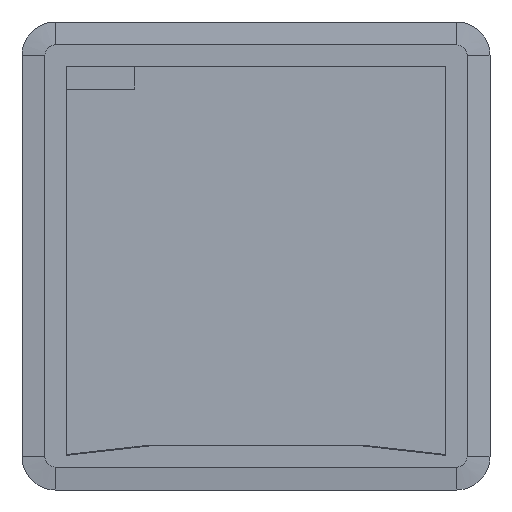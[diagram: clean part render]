
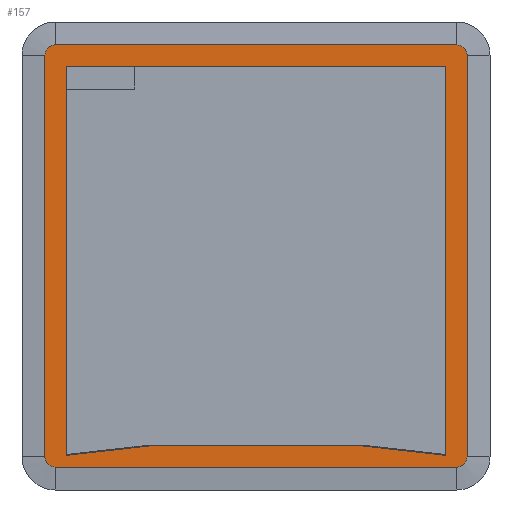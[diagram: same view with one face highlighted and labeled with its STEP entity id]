
A CAD part, front view. The second image highlights one B-rep face of the part: STEP entity #157.
In plain terms, the highlighted planar face has unit normal (0, -1, 0).
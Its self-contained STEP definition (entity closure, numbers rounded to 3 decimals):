
#68=FACE_BOUND('',#1782,.T.);
#157=ADVANCED_FACE('',(#969,#68),#12522,.T.);
#969=FACE_OUTER_BOUND('',#1781,.T.);
#1781=EDGE_LOOP('',(#2698,#2699,#2700,#2701,#2702,#2703,#2704,#2705));
#1782=EDGE_LOOP('',(#2706,#2707,#2708,#2709,#2710,#2711));
#2698=ORIENTED_EDGE('',*,*,#6779,.F.);
#2699=ORIENTED_EDGE('',*,*,#6782,.F.);
#2700=ORIENTED_EDGE('',*,*,#6785,.F.);
#2701=ORIENTED_EDGE('',*,*,#6788,.F.);
#2702=ORIENTED_EDGE('',*,*,#6791,.F.);
#2703=ORIENTED_EDGE('',*,*,#6810,.F.);
#2704=ORIENTED_EDGE('',*,*,#6772,.F.);
#2705=ORIENTED_EDGE('',*,*,#6776,.F.);
#2706=ORIENTED_EDGE('',*,*,#6760,.F.);
#2707=ORIENTED_EDGE('',*,*,#6758,.F.);
#2708=ORIENTED_EDGE('',*,*,#6756,.T.);
#2709=ORIENTED_EDGE('',*,*,#6761,.F.);
#2710=ORIENTED_EDGE('',*,*,#6762,.F.);
#2711=ORIENTED_EDGE('',*,*,#6759,.T.);
#6756=EDGE_CURVE('',#10862,#10861,#9630,.T.);
#6758=EDGE_CURVE('',#10862,#10863,#9632,.T.);
#6759=EDGE_CURVE('',#10865,#10864,#9633,.T.);
#6760=EDGE_CURVE('',#10863,#10864,#9634,.T.);
#6761=EDGE_CURVE('',#10867,#10861,#9635,.T.);
#6762=EDGE_CURVE('',#10865,#10867,#9636,.T.);
#6772=EDGE_CURVE('',#10869,#10868,#9646,.T.);
#6776=EDGE_CURVE('',#10866,#10869,#8800,.T.);
#6779=EDGE_CURVE('',#10873,#10866,#9651,.T.);
#6782=EDGE_CURVE('',#10875,#10873,#8802,.T.);
#6785=EDGE_CURVE('',#10877,#10875,#9655,.T.);
#6788=EDGE_CURVE('',#10879,#10877,#8804,.T.);
#6791=EDGE_CURVE('',#10881,#10879,#9659,.T.);
#6810=EDGE_CURVE('',#10868,#10881,#8810,.T.);
#8800=(
BOUNDED_CURVE()
B_SPLINE_CURVE(2,(#19932,#19933,#19934),.UNSPECIFIED.,.F.,.F.)
B_SPLINE_CURVE_WITH_KNOTS((3,3),(-7.069,0.),.UNSPECIFIED.)
CURVE()
GEOMETRIC_REPRESENTATION_ITEM()
RATIONAL_B_SPLINE_CURVE((1.,0.707,1.))
REPRESENTATION_ITEM('')
);
#8802=(
BOUNDED_CURVE()
B_SPLINE_CURVE(2,(#19946,#19947,#19948),.UNSPECIFIED.,.F.,.F.)
B_SPLINE_CURVE_WITH_KNOTS((3,3),(-7.069,0.),.UNSPECIFIED.)
CURVE()
GEOMETRIC_REPRESENTATION_ITEM()
RATIONAL_B_SPLINE_CURVE((1.,0.707,1.))
REPRESENTATION_ITEM('')
);
#8804=(
BOUNDED_CURVE()
B_SPLINE_CURVE(2,(#19960,#19961,#19962),.UNSPECIFIED.,.F.,.F.)
B_SPLINE_CURVE_WITH_KNOTS((3,3),(-7.069,0.),.UNSPECIFIED.)
CURVE()
GEOMETRIC_REPRESENTATION_ITEM()
RATIONAL_B_SPLINE_CURVE((1.,0.707,1.))
REPRESENTATION_ITEM('')
);
#8810=(
BOUNDED_CURVE()
B_SPLINE_CURVE(2,(#20010,#20011,#20012),.UNSPECIFIED.,.F.,.F.)
B_SPLINE_CURVE_WITH_KNOTS((3,3),(-7.069,0.),.UNSPECIFIED.)
CURVE()
GEOMETRIC_REPRESENTATION_ITEM()
RATIONAL_B_SPLINE_CURVE((1.,0.707,1.))
REPRESENTATION_ITEM('')
);
#9630=B_SPLINE_CURVE_WITH_KNOTS('',1,(#19814,#19815),.UNSPECIFIED.,.F.,.F.,
(2,2),(-165.5,0.),.UNSPECIFIED.);
#9632=B_SPLINE_CURVE_WITH_KNOTS('',1,(#19818,#19819),.UNSPECIFIED.,.F.,.F.,
(2,2),(0.,169.649),.UNSPECIFIED.);
#9633=B_SPLINE_CURVE_WITH_KNOTS('',1,(#19820,#19821),.UNSPECIFIED.,.F.,.F.,
(2,2),(-92.062,0.),.UNSPECIFIED.);
#9634=B_SPLINE_CURVE_WITH_KNOTS('',1,(#19822,#19823),.UNSPECIFIED.,.F.,.F.,
(2,2),(0.,36.953),.UNSPECIFIED.);
#9635=B_SPLINE_CURVE_WITH_KNOTS('',1,(#19824,#19825),.UNSPECIFIED.,.F.,.F.,
(2,2),(0.,169.649),.UNSPECIFIED.);
#9636=B_SPLINE_CURVE_WITH_KNOTS('',1,(#19826,#19827),.UNSPECIFIED.,.F.,.F.,
(2,2),(-36.953,0.),.UNSPECIFIED.);
#9646=B_SPLINE_CURVE_WITH_KNOTS('',1,(#19924,#19925),.UNSPECIFIED.,.F.,.F.,
(2,2),(-175.,0.),.UNSPECIFIED.);
#9651=B_SPLINE_CURVE_WITH_KNOTS('',1,(#19940,#19941),.UNSPECIFIED.,.F.,.F.,
(2,2),(-175.,0.),.UNSPECIFIED.);
#9655=B_SPLINE_CURVE_WITH_KNOTS('',1,(#19954,#19955),.UNSPECIFIED.,.F.,.F.,
(2,2),(-175.,0.),.UNSPECIFIED.);
#9659=B_SPLINE_CURVE_WITH_KNOTS('',1,(#19968,#19969),.UNSPECIFIED.,.F.,.F.,
(2,2),(-175.,0.),.UNSPECIFIED.);
#10861=VERTEX_POINT('',#19064);
#10862=VERTEX_POINT('',#19065);
#10863=VERTEX_POINT('',#19066);
#10864=VERTEX_POINT('',#19067);
#10865=VERTEX_POINT('',#19068);
#10866=VERTEX_POINT('',#19069);
#10867=VERTEX_POINT('',#19070);
#10868=VERTEX_POINT('',#19071);
#10869=VERTEX_POINT('',#19072);
#10873=VERTEX_POINT('',#19076);
#10875=VERTEX_POINT('',#19078);
#10877=VERTEX_POINT('',#19080);
#10879=VERTEX_POINT('',#19082);
#10881=VERTEX_POINT('',#19084);
#12522=PLANE('',#13067);
#13067=AXIS2_PLACEMENT_3D('',#13990,#13528,$);
#13528=DIRECTION('',(0.,-1.,0.));
#13990=CARTESIAN_POINT('',(-110.4,-27.5,110.4));
#19064=CARTESIAN_POINT('',(82.75,-27.5,82.75));
#19065=CARTESIAN_POINT('',(-82.75,-27.5,82.75));
#19066=CARTESIAN_POINT('',(-82.75,-27.5,-86.899));
#19067=CARTESIAN_POINT('',(-46.031,-27.5,-82.75));
#19068=CARTESIAN_POINT('',(46.031,-27.5,-82.75));
#19069=CARTESIAN_POINT('',(-92.,-27.5,87.5));
#19070=CARTESIAN_POINT('',(82.75,-27.5,-86.899));
#19071=CARTESIAN_POINT('',(87.5,-27.5,92.));
#19072=CARTESIAN_POINT('',(-87.5,-27.5,92.));
#19076=CARTESIAN_POINT('',(-92.,-27.5,-87.5));
#19078=CARTESIAN_POINT('',(-87.5,-27.5,-92.));
#19080=CARTESIAN_POINT('',(87.5,-27.5,-92.));
#19082=CARTESIAN_POINT('',(92.,-27.5,-87.5));
#19084=CARTESIAN_POINT('',(92.,-27.5,87.5));
#19814=CARTESIAN_POINT('',(-82.75,-27.5,82.75));
#19815=CARTESIAN_POINT('',(82.75,-27.5,82.75));
#19818=CARTESIAN_POINT('',(-82.75,-27.5,82.75));
#19819=CARTESIAN_POINT('',(-82.75,-27.5,-86.899));
#19820=CARTESIAN_POINT('',(46.031,-27.5,-82.75));
#19821=CARTESIAN_POINT('',(-46.031,-27.5,-82.75));
#19822=CARTESIAN_POINT('',(-82.75,-27.5,-86.899));
#19823=CARTESIAN_POINT('',(-46.031,-27.5,-82.75));
#19824=CARTESIAN_POINT('',(82.75,-27.5,-86.899));
#19825=CARTESIAN_POINT('',(82.75,-27.5,82.75));
#19826=CARTESIAN_POINT('',(46.031,-27.5,-82.75));
#19827=CARTESIAN_POINT('',(82.75,-27.5,-86.899));
#19924=CARTESIAN_POINT('',(-87.5,-27.5,92.));
#19925=CARTESIAN_POINT('',(87.5,-27.5,92.));
#19932=CARTESIAN_POINT('',(-92.,-27.5,87.5));
#19933=CARTESIAN_POINT('',(-92.,-27.5,92.));
#19934=CARTESIAN_POINT('',(-87.5,-27.5,92.));
#19940=CARTESIAN_POINT('',(-92.,-27.5,-87.5));
#19941=CARTESIAN_POINT('',(-92.,-27.5,87.5));
#19946=CARTESIAN_POINT('',(-87.5,-27.5,-92.));
#19947=CARTESIAN_POINT('',(-92.,-27.5,-92.));
#19948=CARTESIAN_POINT('',(-92.,-27.5,-87.5));
#19954=CARTESIAN_POINT('',(87.5,-27.5,-92.));
#19955=CARTESIAN_POINT('',(-87.5,-27.5,-92.));
#19960=CARTESIAN_POINT('',(92.,-27.5,-87.5));
#19961=CARTESIAN_POINT('',(92.,-27.5,-92.));
#19962=CARTESIAN_POINT('',(87.5,-27.5,-92.));
#19968=CARTESIAN_POINT('',(92.,-27.5,87.5));
#19969=CARTESIAN_POINT('',(92.,-27.5,-87.5));
#20010=CARTESIAN_POINT('',(87.5,-27.5,92.));
#20011=CARTESIAN_POINT('',(92.,-27.5,92.));
#20012=CARTESIAN_POINT('',(92.,-27.5,87.5));
